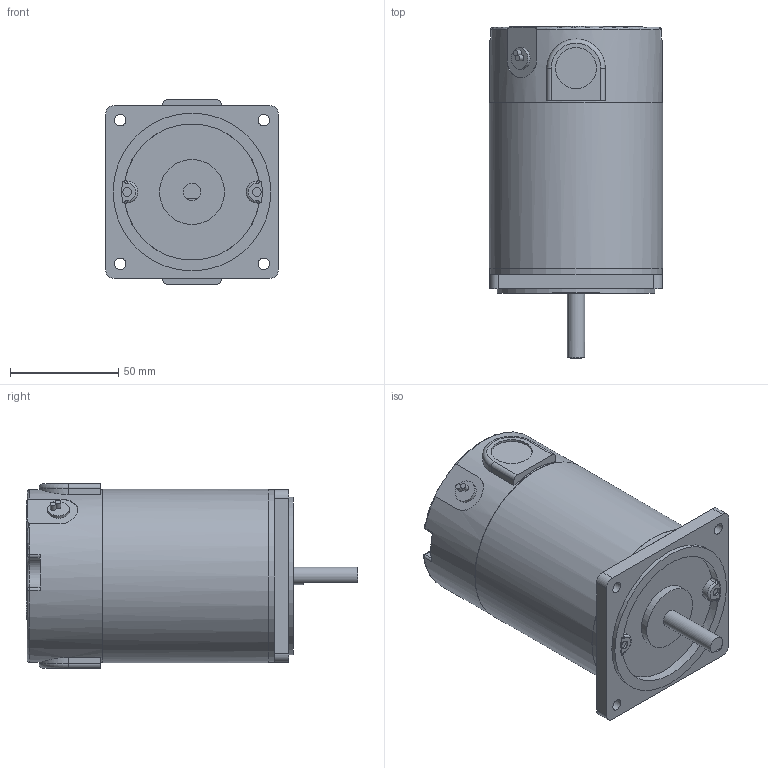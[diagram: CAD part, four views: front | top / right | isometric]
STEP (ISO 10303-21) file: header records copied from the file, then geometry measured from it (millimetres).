
FILE_DESCRIPTION((''),'2;1');
FILE_NAME('E:\2공장-도면\3D\표준형 3D(민규)\step file\K8DS40N.stp','2014-11-06T14:05:28',('AHN'),(''),'Autodesk Inventor 2012','Autodesk Inventor 2012','');
FILE_SCHEMA(('CONFIG_CONTROL_DESIGN'));
Length unit declared in the file: millimetre
Products named in the file (1): K8DS40N
Bounding box: 80.1 x 153.5 x 85.31 mm (x, y, z)
Volume: 618597.2 mm3; surface area: 47638.7 mm2
Topology: 1 solids, 1 shells, 153 faces, 358 edges, 227 vertices
Faces by surface type: plane 72, cylinder 64, torus 13, sphere 4
Full cylindrical faces by diameter (mm): 2.6 x2, 4 x2, 5.3 x4, 8 x1, 10 x1, 19 x2, 30 x2, 73 x1, 80 x2, 80.1 x1
Entity records: 4430 total; most frequent: CARTESIAN_POINT 859, DIRECTION 788, ORIENTED_EDGE 674, EDGE_CURVE 337, AXIS2_PLACEMENT_3D 310, VERTEX_POINT 223, EDGE_LOOP 199, VECTOR 168
